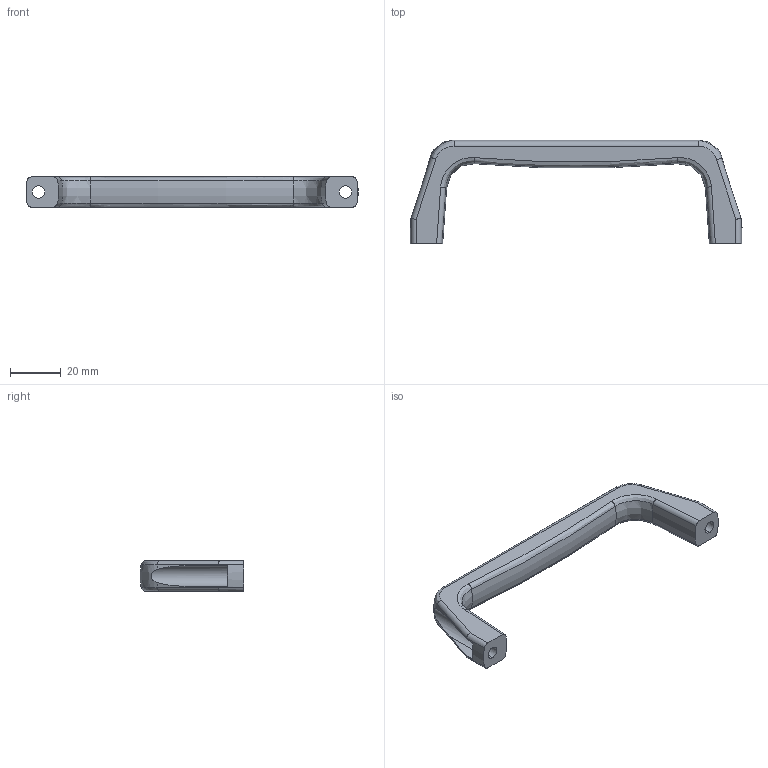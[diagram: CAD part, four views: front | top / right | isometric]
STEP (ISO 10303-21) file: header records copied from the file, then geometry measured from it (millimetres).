
FILE_DESCRIPTION (( 'STEP AP214' ), '1' );
FILE_NAME ('4.04.spfh.STEP', '2015-05-30T10:17:48', ( '' ), ( '' ), 'SwSTEP 2.0', 'SolidWorks 2015', '' );
FILE_SCHEMA (( 'AUTOMOTIVE_DESIGN' ));
Length unit declared in the file: millimetre
Products named in the file (1): 4.04.spfh
Bounding box: 130.91 x 40.95 x 12 mm (x, y, z)
Volume: 19186.7 mm3; surface area: 8054.8 mm2
Topology: 1 solids, 1 shells, 71 faces, 193 edges, 122 vertices
Faces by surface type: cylinder 26, bspline 22, plane 18, cone 5
Entity records: 3438 total; most frequent: CARTESIAN_POINT 1825, ORIENTED_EDGE 386, DIRECTION 265, EDGE_CURVE 193, VERTEX_POINT 122, AXIS2_PLACEMENT_3D 94, VECTOR 77, LINE 77
